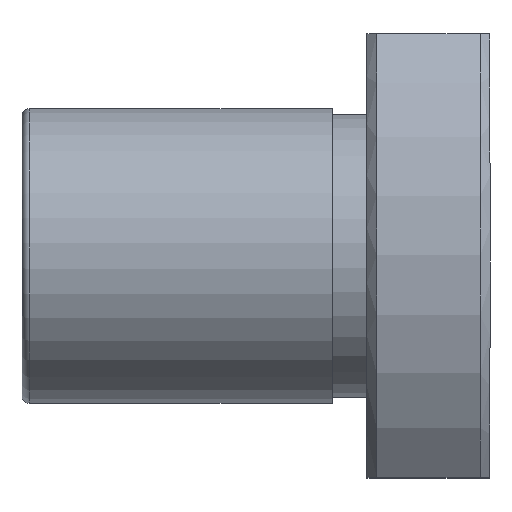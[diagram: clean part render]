
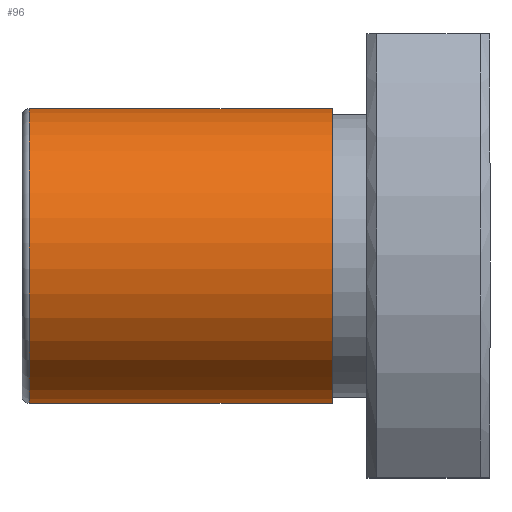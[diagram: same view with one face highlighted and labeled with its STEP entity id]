
A CAD part, top view. The second image highlights one B-rep face of the part: STEP entity #96.
In plain terms, the highlighted cylindrical face has radius 6 mm (diameter 12 mm), a full revolution.
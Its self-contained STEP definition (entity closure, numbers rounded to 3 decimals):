
#96=ADVANCED_FACE('',(#157,#158),#159,.T.);
#157=FACE_OUTER_BOUND('',#219,.T.);
#158=FACE_OUTER_BOUND('',#220,.T.);
#159=CYLINDRICAL_SURFACE('',#221,6.0);
#219=EDGE_LOOP('',(#361));
#220=EDGE_LOOP('',(#362));
#221=AXIS2_PLACEMENT_3D('',#363,#364,#365);
#361=ORIENTED_EDGE('',*,*,#395,.F.);
#362=ORIENTED_EDGE('',*,*,#404,.T.);
#363=CARTESIAN_POINT('',(-12.55,0.,0.));
#364=DIRECTION('',(1.0,-0.0,0.));
#365=DIRECTION('',(0.,0.707,-0.707));
#395=EDGE_CURVE('',#457,#457,#458,.T.);
#404=EDGE_CURVE('',#473,#473,#474,.T.);
#457=VERTEX_POINT('',#553);
#458=CIRCLE('',#554,6.0);
#473=VERTEX_POINT('',#575);
#474=CIRCLE('',#576,6.0);
#553=CARTESIAN_POINT('',(-6.4,4.243,-4.243));
#554=AXIS2_PLACEMENT_3D('',#630,#631,#632);
#575=CARTESIAN_POINT('',(-18.7,4.243,-4.243));
#576=AXIS2_PLACEMENT_3D('',#651,#652,#653);
#630=CARTESIAN_POINT('',(-6.4,0.,0.));
#631=DIRECTION('',(1.0,0.0,0.));
#632=DIRECTION('',(0.,0.707,-0.707));
#651=CARTESIAN_POINT('',(-18.7,0.,0.));
#652=DIRECTION('',(1.0,0.0,0.));
#653=DIRECTION('',(0.,0.707,-0.707));
